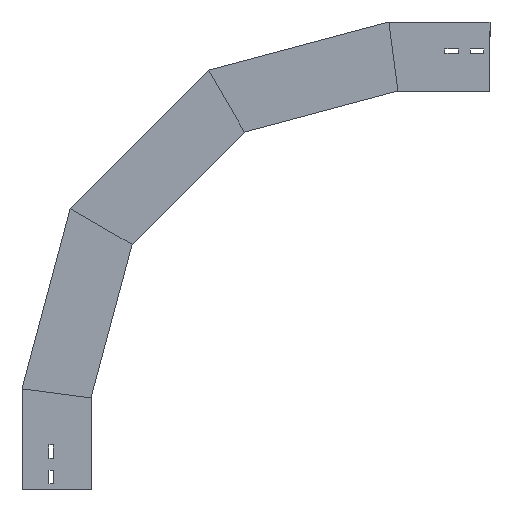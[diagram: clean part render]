
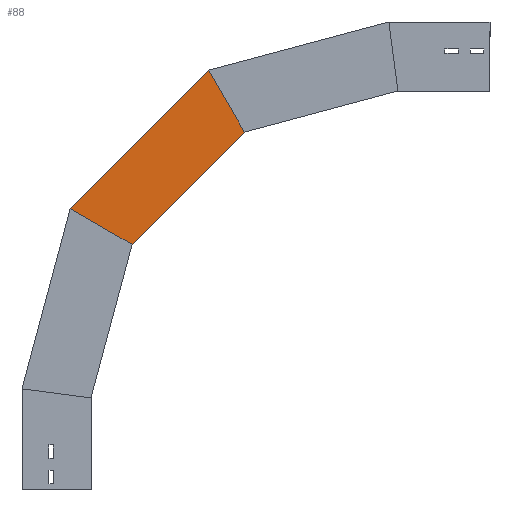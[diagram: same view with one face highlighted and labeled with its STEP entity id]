
A CAD part, left-side view. The second image highlights one B-rep face of the part: STEP entity #88.
In plain terms, the highlighted planar face has unit normal (-1, 0, 0) as drawn and (1, 0, 0) by its records, which use the part's own axes.
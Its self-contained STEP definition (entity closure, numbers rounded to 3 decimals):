
#18 = EDGE_CURVE ( 'NONE', #194, #1212, #887, .T. ) ;
#52 = VERTEX_POINT ( 'NONE', #646 ) ;
#88 = ADVANCED_FACE ( 'NONE', ( #357 ), #944, .T. ) ;
#154 = CARTESIAN_POINT ( 'NONE',  ( 0., -43.517, 376.657 ) ) ;
#194 = VERTEX_POINT ( 'NONE', #414 ) ;
#263 = EDGE_CURVE ( 'NONE', #1576, #52, #395, .T. ) ;
#268 = VECTOR ( 'NONE', #744, 1000. ) ;
#357 = FACE_OUTER_BOUND ( 'NONE', #998, .T. ) ;
#371 = VECTOR ( 'NONE', #1726, 1000. ) ;
#387 = DIRECTION ( 'NONE',  ( 0., 0., -1. ) ) ;
#395 = LINE ( 'NONE', #1730, #1838 ) ;
#414 = CARTESIAN_POINT ( 'NONE',  ( 0., -67.034, 400.175 ) ) ;
#533 = VECTOR ( 'NONE', #1370, 1000. ) ;
#553 = LINE ( 'NONE', #1142, #371 ) ;
#573 = ORIENTED_EDGE ( 'NONE', *, *, #263, .T. ) ;
#640 = DIRECTION ( 'NONE',  ( 1., 0., 0. ) ) ;
#646 = CARTESIAN_POINT ( 'NONE',  ( 0., -191.941, 684.18 ) ) ;
#683 = ORIENTED_EDGE ( 'NONE', *, *, #1849, .T. ) ;
#744 = DIRECTION ( 'NONE',  ( 0., -0.707, 0.707 ) ) ;
#870 = ORIENTED_EDGE ( 'NONE', *, *, #984, .F. ) ;
#887 = LINE ( 'NONE', #154, #268 ) ;
#944 = PLANE ( 'NONE',  #1782 ) ;
#983 = DIRECTION ( 'NONE',  ( 0., -0.707, 0.707 ) ) ;
#984 = EDGE_CURVE ( 'NONE', #1576, #194, #553, .T. ) ;
#998 = EDGE_LOOP ( 'NONE', ( #573, #683, #1879, #870 ) ) ;
#1071 = CARTESIAN_POINT ( 'NONE',  ( 0., -250.175, 583.315 ) ) ;
#1092 = CARTESIAN_POINT ( 'NONE',  ( 0., -287.996, 517.807 ) ) ;
#1142 = CARTESIAN_POINT ( 'NONE',  ( 0., -128.762, 364.536 ) ) ;
#1212 = VERTEX_POINT ( 'NONE', #1071 ) ;
#1285 = CARTESIAN_POINT ( 'NONE',  ( 0., 33.831, 458.409 ) ) ;
#1370 = DIRECTION ( 'NONE',  ( 0., -0.5, -0.866 ) ) ;
#1534 = CARTESIAN_POINT ( 'NONE',  ( 0., -43.517, 376.657 ) ) ;
#1542 = LINE ( 'NONE', #1092, #533 ) ;
#1576 = VERTEX_POINT ( 'NONE', #1285 ) ;
#1726 = DIRECTION ( 'NONE',  ( 0., -0.866, -0.5 ) ) ;
#1730 = CARTESIAN_POINT ( 'NONE',  ( 0., 36.033, 456.207 ) ) ;
#1782 = AXIS2_PLACEMENT_3D ( 'NONE', #1534, #640, #387 ) ;
#1838 = VECTOR ( 'NONE', #983, 1000. ) ;
#1849 = EDGE_CURVE ( 'NONE', #52, #1212, #1542, .T. ) ;
#1879 = ORIENTED_EDGE ( 'NONE', *, *, #18, .F. ) ;
